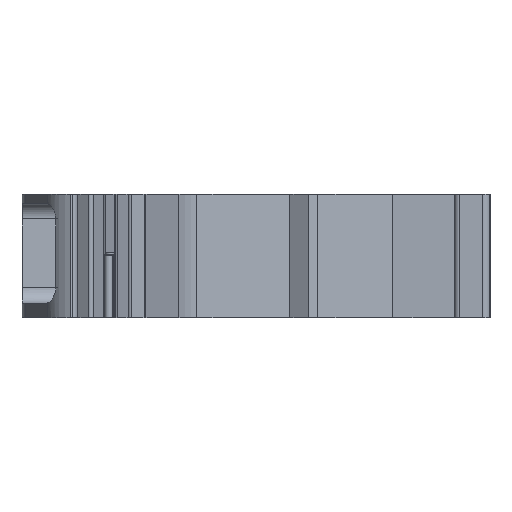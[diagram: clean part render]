
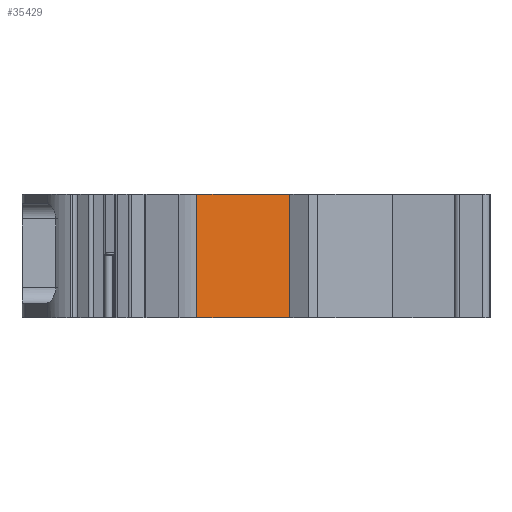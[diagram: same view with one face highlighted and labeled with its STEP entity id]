
A CAD part, left-side view. The second image highlights one B-rep face of the part: STEP entity #35429.
In plain terms, the highlighted planar face has unit normal (-0.978, -0.208, 0).
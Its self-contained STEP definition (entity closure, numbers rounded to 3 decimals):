
#633 = LINE ( 'NONE', #7120, #47648 ) ;
#4609 = EDGE_LOOP ( 'NONE', ( #39167, #18248, #6550, #33975 ) ) ;
#6434 = CARTESIAN_POINT ( 'NONE',  ( -44.5, -4.4, -16. ) ) ;
#6550 = ORIENTED_EDGE ( 'NONE', *, *, #25820, .T. ) ;
#7120 = CARTESIAN_POINT ( 'NONE',  ( -44.5, -4.4, 0. ) ) ;
#7761 = LINE ( 'NONE', #68833, #15163 ) ;
#12106 = CARTESIAN_POINT ( 'NONE',  ( -49.891, 20.961, -16. ) ) ;
#12521 = CARTESIAN_POINT ( 'NONE',  ( -47.331, 8.919, -20.231 ) ) ;
#12625 = DIRECTION ( 'NONE',  ( -0.978, -0.208, 0. ) ) ;
#15163 = VECTOR ( 'NONE', #36680, 1000. ) ;
#18248 = ORIENTED_EDGE ( 'NONE', *, *, #28832, .F. ) ;
#21044 = FACE_OUTER_BOUND ( 'NONE', #4609, .T. ) ;
#22423 = CARTESIAN_POINT ( 'NONE',  ( -49.891, 20.961, 0. ) ) ;
#24769 = EDGE_CURVE ( 'NONE', #76583, #62655, #42351, .T. ) ;
#25820 = EDGE_CURVE ( 'NONE', #64667, #26499, #7761, .T. ) ;
#26499 = VERTEX_POINT ( 'NONE', #12106 ) ;
#28832 = EDGE_CURVE ( 'NONE', #64667, #62655, #633, .T. ) ;
#33024 = CARTESIAN_POINT ( 'NONE',  ( -44.5, -4.4, -16. ) ) ;
#33975 = ORIENTED_EDGE ( 'NONE', *, *, #80019, .T. ) ;
#35429 = ADVANCED_FACE ( 'NONE', ( #21044 ), #46424, .T. ) ;
#36680 = DIRECTION ( 'NONE',  ( 0., 0., -1. ) ) ;
#39167 = ORIENTED_EDGE ( 'NONE', *, *, #24769, .T. ) ;
#41603 = AXIS2_PLACEMENT_3D ( 'NONE', #6434, #12625, #59563 ) ;
#42351 = LINE ( 'NONE', #12521, #46612 ) ;
#46249 = DIRECTION ( 'NONE',  ( 0.208, -0.978, 0. ) ) ;
#46424 = PLANE ( 'NONE',  #41603 ) ;
#46612 = VECTOR ( 'NONE', #71472, 1000. ) ;
#47648 = VECTOR ( 'NONE', #46249, 1000. ) ;
#54948 = CARTESIAN_POINT ( 'NONE',  ( -47.331, 8.919, 0. ) ) ;
#59563 = DIRECTION ( 'NONE',  ( 0.208, -0.978, 0. ) ) ;
#62655 = VERTEX_POINT ( 'NONE', #54948 ) ;
#64667 = VERTEX_POINT ( 'NONE', #22423 ) ;
#68833 = CARTESIAN_POINT ( 'NONE',  ( -49.891, 20.961, -16. ) ) ;
#71472 = DIRECTION ( 'NONE',  ( 0., 0., 1. ) ) ;
#72304 = VECTOR ( 'NONE', #86769, 1000. ) ;
#76438 = LINE ( 'NONE', #33024, #72304 ) ;
#76583 = VERTEX_POINT ( 'NONE', #77492 ) ;
#77492 = CARTESIAN_POINT ( 'NONE',  ( -47.331, 8.919, -16. ) ) ;
#80019 = EDGE_CURVE ( 'NONE', #26499, #76583, #76438, .T. ) ;
#86769 = DIRECTION ( 'NONE',  ( 0.208, -0.978, 0. ) ) ;
